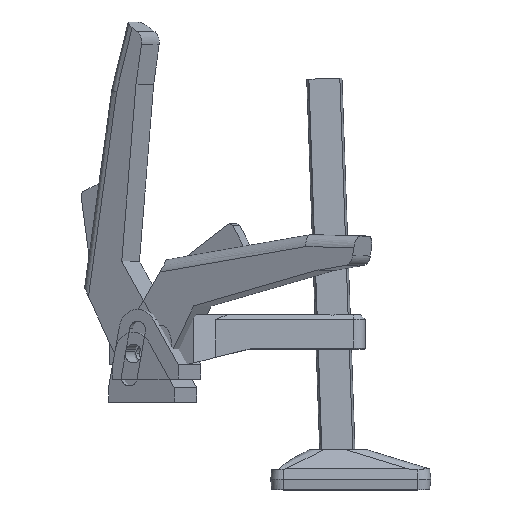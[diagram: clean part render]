
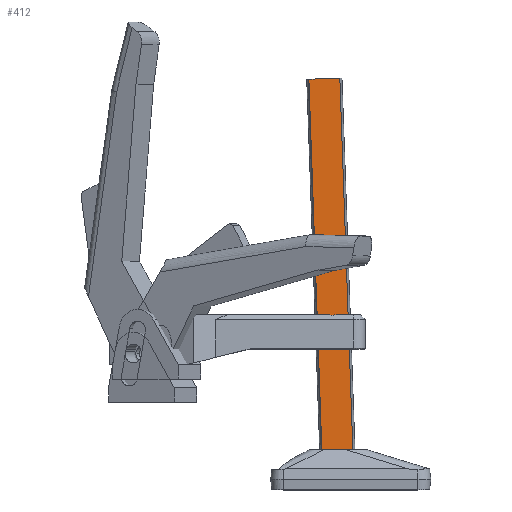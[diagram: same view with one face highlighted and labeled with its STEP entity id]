
A CAD part, top view. The second image highlights one B-rep face of the part: STEP entity #412.
In plain terms, the highlighted free-form (B-spline) face has degree [1, 1] with [2, 2] control points.
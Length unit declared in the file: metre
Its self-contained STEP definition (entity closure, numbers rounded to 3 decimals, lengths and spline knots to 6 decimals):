
#412 = ADVANCED_FACE( '', ( #853 ), #854, .T. );
#853 = FACE_OUTER_BOUND( '', #2230, .T. );
#854 = B_SPLINE_SURFACE_WITH_KNOTS( '', 1, 1, ( ( #2231, #2232 ), ( #2233, #2234 ) ), .UNSPECIFIED., .F., .F., .F., ( 2, 2 ), ( 2, 2 ), ( 0., 1. ), ( 0.078086, 1. ), .UNSPECIFIED. );
#2230 = EDGE_LOOP( '', ( #3474, #3475, #3476, #3477 ) );
#2231 = CARTESIAN_POINT( '', ( -0.015669, 0.033082, 0.00714 ) );
#2232 = CARTESIAN_POINT( '', ( -0.026696, 0.348848, 0.00714 ) );
#2233 = CARTESIAN_POINT( '', ( 0.010607, 0.034, 0.00714 ) );
#2234 = CARTESIAN_POINT( '', ( -0.00042, 0.349766, 0.00714 ) );
#3474 = ORIENTED_EDGE( '', *, *, #3836, .F. );
#3475 = ORIENTED_EDGE( '', *, *, #4203, .T. );
#3476 = ORIENTED_EDGE( '', *, *, #4237, .T. );
#3477 = ORIENTED_EDGE( '', *, *, #4047, .F. );
#3836 = EDGE_CURVE( '', #4401, #4402, #4403, .T. );
#4047 = EDGE_CURVE( '', #4402, #4757, #4758, .T. );
#4203 = EDGE_CURVE( '', #4401, #4978, #4980, .T. );
#4237 = EDGE_CURVE( '', #4978, #4757, #5024, .T. );
#4401 = VERTEX_POINT( '', #5449 );
#4402 = VERTEX_POINT( '', #5450 );
#4403 = B_SPLINE_CURVE_WITH_KNOTS( '', 1, ( #5451, #5452 ), .UNSPECIFIED., .F., .F., ( 2, 2 ), ( 0., 1. ), .UNSPECIFIED. );
#4757 = VERTEX_POINT( '', #7172 );
#4758 = B_SPLINE_CURVE_WITH_KNOTS( '', 1, ( #7173, #7174 ), .UNSPECIFIED., .F., .F., ( 2, 2 ), ( 0., 1. ), .UNSPECIFIED. );
#4978 = VERTEX_POINT( '', #8328 );
#4980 = B_SPLINE_CURVE_WITH_KNOTS( '', 1, ( #8339, #8340 ), .UNSPECIFIED., .F., .F., ( 2, 2 ), ( 0., 1. ), .UNSPECIFIED. );
#5024 = B_SPLINE_CURVE_WITH_KNOTS( '', 1, ( #8570, #8571 ), .UNSPECIFIED., .F., .F., ( 2, 2 ), ( 0., 1. ), .UNSPECIFIED. );
#5449 = CARTESIAN_POINT( '', ( 0.010607, 0.034, 0.00714 ) );
#5450 = CARTESIAN_POINT( '', ( -0.015701, 0.034, 0.00714 ) );
#5451 = CARTESIAN_POINT( '', ( 0.010607, 0.034, 0.00714 ) );
#5452 = CARTESIAN_POINT( '', ( -0.015701, 0.034, 0.00714 ) );
#7172 = CARTESIAN_POINT( '', ( -0.026696, 0.348848, 0.00714 ) );
#7173 = CARTESIAN_POINT( '', ( -0.015701, 0.034, 0.00714 ) );
#7174 = CARTESIAN_POINT( '', ( -0.026696, 0.348848, 0.00714 ) );
#8328 = CARTESIAN_POINT( '', ( -0.00042, 0.349766, 0.00714 ) );
#8339 = CARTESIAN_POINT( '', ( 0.010607, 0.034, 0.00714 ) );
#8340 = CARTESIAN_POINT( '', ( -0.00042, 0.349766, 0.00714 ) );
#8570 = CARTESIAN_POINT( '', ( -0.00042, 0.349766, 0.00714 ) );
#8571 = CARTESIAN_POINT( '', ( -0.026696, 0.348848, 0.00714 ) );
